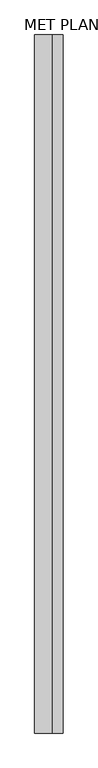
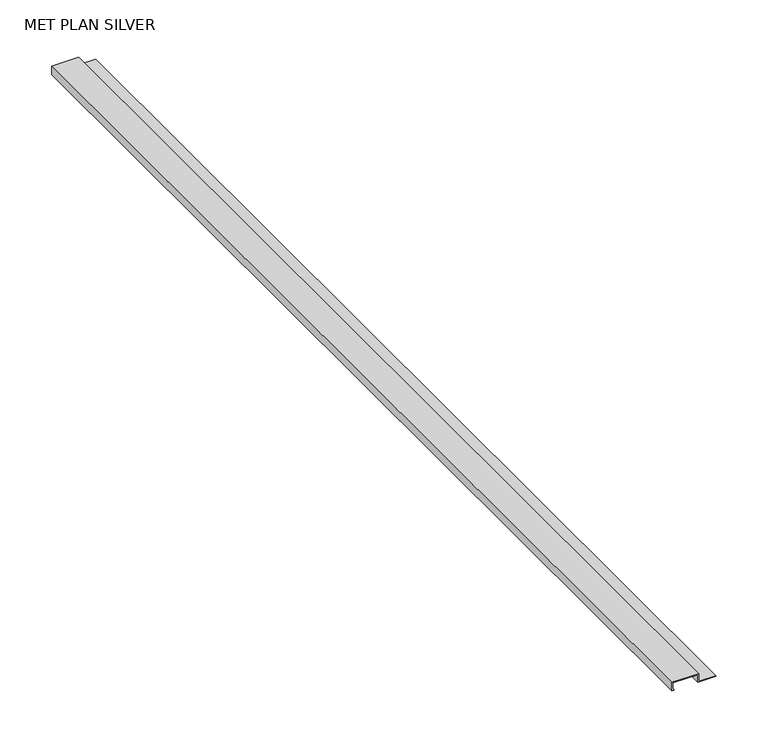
"""IFC4 building model written with IfcOpenShell, lengths in millimetres: proxy geometry, PORTOBELLO - METALLICA MET MID PLAN 3X120 : MET PLAN SILVER."""

from ifc_helpers import new_model, si_unit, frame, origin, place, context, project, spatial, polyline, outline, extrude, source, transform, mapped, element, save


def met_plan_silver_a67b7665(model_context):
    return source(origin(), model_context, "Body", "SweptSolid", [
        extrude(outline(polyline([(1.0, -15.0), (-9.0, -15.0), (-9.0, -12.7289948), (-7.7920635, -12.7289948), (-6.5210583, -14.0), (0.0, -14.0), (0.0, 14.0), (-9.0, 14.0), (-9.0, 33.9106111), (-8.0, 33.9106111), (-8.0, 15.0), (1.0, 15.0), (1.0, -15.0)])), frame((0.0, -600.0, 0.0), z_axis=(0.0, 1.0, 0.0), x_axis=(0.0, 0.0, 1.0)), (0.0, 0.0, 1.0), 1200.0),
    ])


if __name__ == "__main__":
    model = new_model("IFC4")
    model_context = context("Model", 3, world=origin())
    ifc_project = project(units=[si_unit("LENGTHUNIT", "METRE", prefix="MILLI")], contexts=[model_context])
    site = spatial("IfcSite", under=ifc_project)
    building = spatial("IfcBuilding", under=site)
    placement = place(None, origin())
    met_plan_silver_shape = met_plan_silver_a67b7665(model_context)
    element("IfcBuildingElementProxy", 1, Name="PORTOBELLO - METALLICA MET MID PLAN 3X120 : MET PLAN SILVER", ObjectType="PORTOBELLO - METALLICA MET MID PLAN 3X120 : MET PLAN SILVER", at=placement, inside=building, context=model_context, shape_type="MappedRepresentation", body=[
        mapped(met_plan_silver_shape, transform((0.0, 0.0, 0.0), x_axis=(1.0, 0.0, 0.0), y_axis=(0.0, 1.0, 0.0), z_axis=(0.0, 0.0, 1.0))),
    ])
    save(model, "model.ifc")
